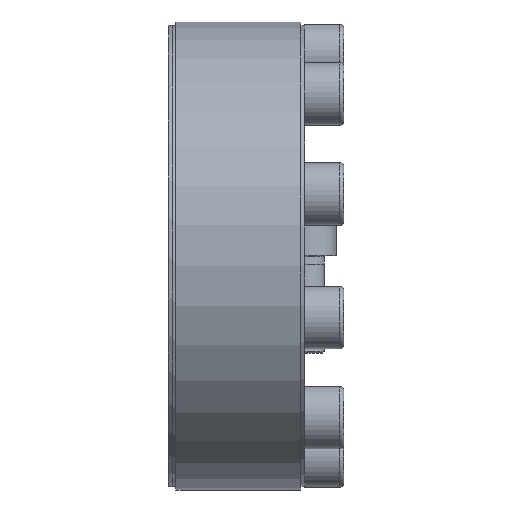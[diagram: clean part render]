
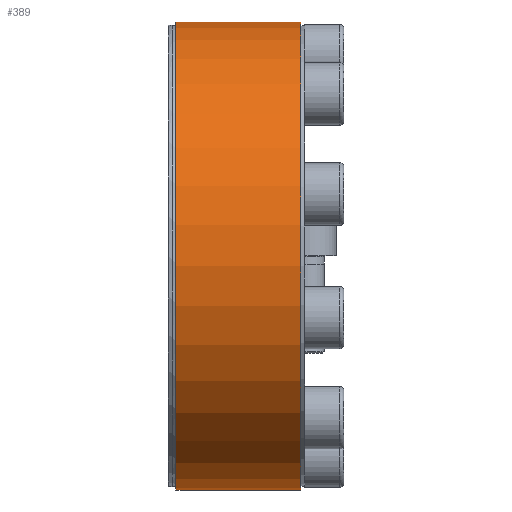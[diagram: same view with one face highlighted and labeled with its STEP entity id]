
A CAD part, left-side view. The second image highlights one B-rep face of the part: STEP entity #389.
In plain terms, the highlighted cylindrical face has radius 60 mm (diameter 120 mm), a partial arc.
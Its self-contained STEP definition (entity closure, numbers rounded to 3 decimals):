
#389 = ADVANCED_FACE( '', ( #601 ), #602, .T. );
#601 = FACE_OUTER_BOUND( '', #755, .T. );
#602 = CYLINDRICAL_SURFACE( '', #756, 60. );
#755 = EDGE_LOOP( '', ( #937, #938, #939, #940 ) );
#756 = AXIS2_PLACEMENT_3D( '', #941, #942, #943 );
#937 = ORIENTED_EDGE( '', *, *, #1299, .F. );
#938 = ORIENTED_EDGE( '', *, *, #1300, .T. );
#939 = ORIENTED_EDGE( '', *, *, #1301, .T. );
#940 = ORIENTED_EDGE( '', *, *, #1302, .F. );
#941 = CARTESIAN_POINT( '', ( 0., -60., 0. ) );
#942 = DIRECTION( '', ( 0., 1., 0. ) );
#943 = DIRECTION( '', ( 0., 0., -1. ) );
#1299 = EDGE_CURVE( '', #1443, #1444, #1445, .T. );
#1300 = EDGE_CURVE( '', #1443, #1446, #1447, .T. );
#1301 = EDGE_CURVE( '', #1446, #1448, #1449, .T. );
#1302 = EDGE_CURVE( '', #1444, #1448, #1450, .T. );
#1443 = VERTEX_POINT( '', #1563 );
#1444 = VERTEX_POINT( '', #1564 );
#1445 = LINE( '', #1565, #1566 );
#1446 = VERTEX_POINT( '', #1567 );
#1447 = CIRCLE( '', #1568, 60. );
#1448 = VERTEX_POINT( '', #1569 );
#1449 = LINE( '', #1570, #1571 );
#1450 = CIRCLE( '', #1572, 60. );
#1563 = CARTESIAN_POINT( '', ( 17.348, 33., 57.437 ) );
#1564 = CARTESIAN_POINT( '', ( 17.348, 1., 57.437 ) );
#1565 = CARTESIAN_POINT( '', ( 17.348, -60., 57.437 ) );
#1566 = VECTOR( '', #1726, 1000. );
#1567 = CARTESIAN_POINT( '', ( 19.726, 33., 56.665 ) );
#1568 = AXIS2_PLACEMENT_3D( '', #1727, #1728, #1729 );
#1569 = CARTESIAN_POINT( '', ( 19.726, 1., 56.665 ) );
#1570 = CARTESIAN_POINT( '', ( 19.726, -60., 56.665 ) );
#1571 = VECTOR( '', #1730, 1000. );
#1572 = AXIS2_PLACEMENT_3D( '', #1731, #1732, #1733 );
#1726 = DIRECTION( '', ( 0., -1., 0. ) );
#1727 = CARTESIAN_POINT( '', ( 0., 33., 0. ) );
#1728 = DIRECTION( '', ( 0., -1., 0. ) );
#1729 = DIRECTION( '', ( 0., 0., -1. ) );
#1730 = DIRECTION( '', ( 0., -1., 0. ) );
#1731 = CARTESIAN_POINT( '', ( 0., 1., 0. ) );
#1732 = DIRECTION( '', ( 0., -1., 0. ) );
#1733 = DIRECTION( '', ( 0., 0., -1. ) );
